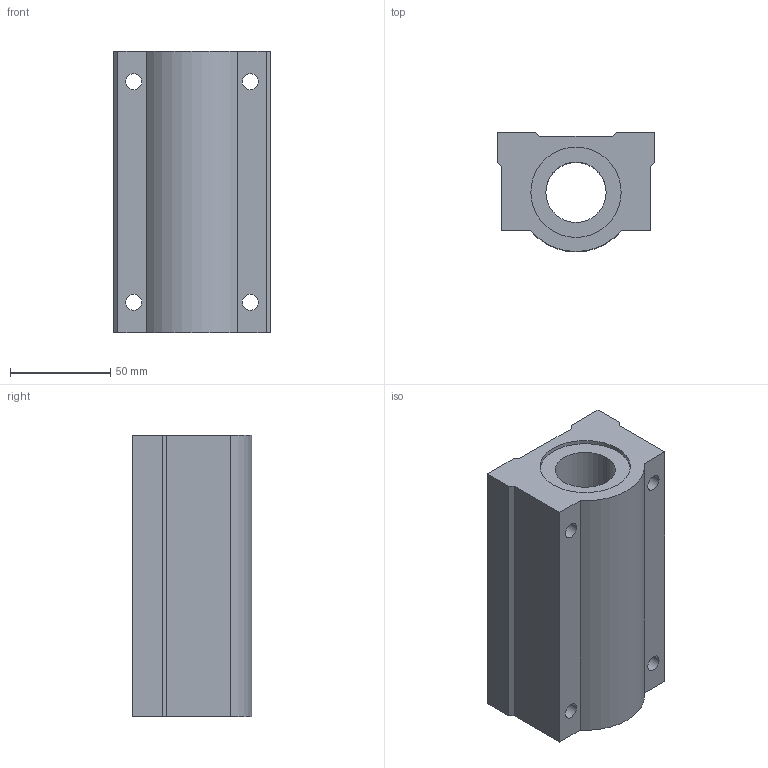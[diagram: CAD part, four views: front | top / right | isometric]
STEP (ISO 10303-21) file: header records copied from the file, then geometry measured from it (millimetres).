
FILE_DESCRIPTION((''),'2;1');
FILE_NAME('C:\Documents and Settings\ｿﾀﾀ蠑ｷ1\ｹﾙﾅﾁ ﾈｭｸ饅\ｺﾎﾇｰﾆﾄﾀﾏ\ﾁｦﾇｰ\SC__WUUN\SC30WUUN.stp','2005-06-22T11:02:38',('ｿﾀﾀ蠑ｷ1'),(''),'Autodesk Inventor 9','Autodesk Inventor 9','');
FILE_SCHEMA(('AUTOMOTIVE_DESIGN { 1 0 10303 214 1 1 1 1 }'));
Length unit declared in the file: millimetre
Products named in the file (1): SC__UUN
Bounding box: 78 x 59.5 x 140 mm (x, y, z)
Volume: 439704.8 mm3; surface area: 60718.7 mm2
Topology: 1 solids, 1 shells, 32 faces, 84 edges, 56 vertices
Faces by surface type: plane 17, bspline 8, cylinder 7
Entity records: 1145 total; most frequent: CARTESIAN_POINT 309, ORIENTED_EDGE 168, DIRECTION 164, EDGE_CURVE 84, VERTEX_POINT 56, AXIS2_PLACEMENT_3D 55, VECTOR 54, LINE 54
